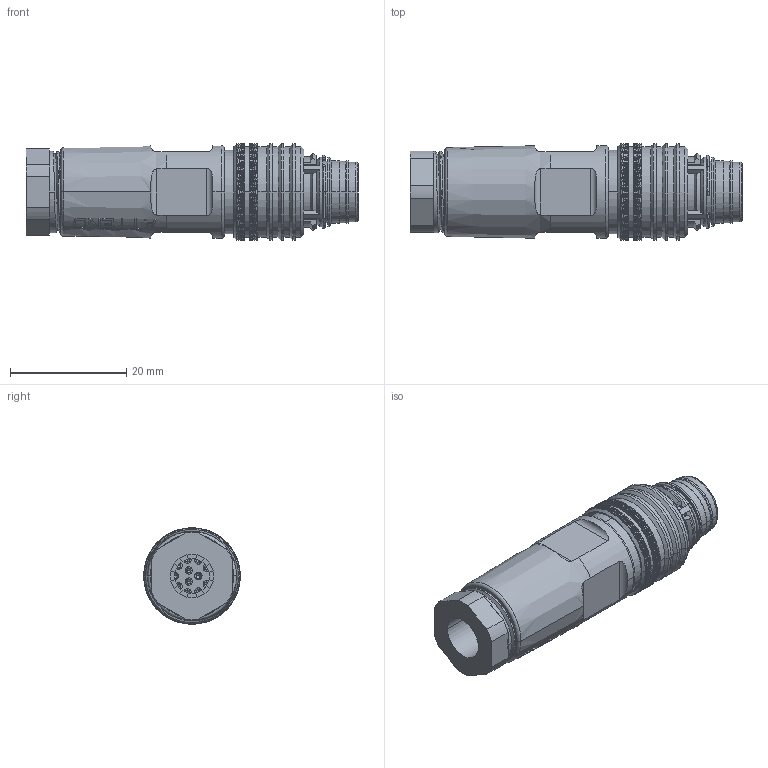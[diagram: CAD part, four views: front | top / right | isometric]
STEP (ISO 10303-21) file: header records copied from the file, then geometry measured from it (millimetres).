
FILE_DESCRIPTION((''),'2;1');
FILE_NAME('3D_DRAWING_ASM_ASM','2025-12-24T',('fros.liao'),(''),'CREO PARAMETRIC BY PTC INC, 2018360','CREO PARAMETRIC BY PTC INC, 2018360','');
FILE_SCHEMA(('AUTOMOTIVE_DESIGN { 1 0 10303 214 1 1 1 1 }'));
Products named in the file (29): SHIELD_NUT_17_1_1_1; PLASTIC_STRAPS_14_1_1_1; RUBBER_STRAPS_14_1_1_1; BACK_PLUG_15_1_1_1; BODY_11_1_1_1; ORING_PUSHPULL_6_1_1_1; THREAD_SLEEVE_ASM_23_ASM_1_ASM__ASM; MSBR-18_1_1_1; MSBR-17_1_1_1; MSBR-16_1_1_1_1; MSBR-15_1_1_1_1; MSBR-14_1_1_1_1; MSBR-13_1_1_1_1; MSBR-12_1_1_1_2_1; MSBR-11_1_1_1_2_1; MSBR-10_1_1_1_2_1; MSBR-9_1_1_1_2_1; MSBR-8_1_1_1_2_1; MSBR-7_1_1_1_2_1; MSBR-6_1_1_1_2_1; MSBR-5_1_1_1_2_1; MSBR-4_1_1_1_2_1; MSBR-3_1_1_1_2_1; MSBR-2_1_1_1_2_1; MSBR-1_1_1_1_2_1; 216A-12M01_ASM_1_ASM_1_ASM; 216A-12M01_C_1_ASM_1_ASM; 3D_DRAWING_ASM_3_ASM; 3D_DRAWING_ASM_ASM
Assembly tree (28 placements, depth 5):
  3D_DRAWING_ASM_ASM
    3D_DRAWING_ASM_3_ASM
      THREAD_SLEEVE_ASM_23_ASM_1_ASM__ASM
        SHIELD_NUT_17_1_1_1
        PLASTIC_STRAPS_14_1_1_1
        RUBBER_STRAPS_14_1_1_1
        BACK_PLUG_15_1_1_1
        BODY_11_1_1_1
        ORING_PUSHPULL_6_1_1_1
      216A-12M01_C_1_ASM_1_ASM
        216A-12M01_ASM_1_ASM_1_ASM
          MSBR-18_1_1_1
          MSBR-17_1_1_1
          MSBR-16_1_1_1_1
          MSBR-15_1_1_1_1
          MSBR-14_1_1_1_1
          MSBR-13_1_1_1_1
          MSBR-12_1_1_1_2_1
          MSBR-11_1_1_1_2_1
          MSBR-10_1_1_1_2_1
          MSBR-9_1_1_1_2_1
          MSBR-8_1_1_1_2_1
          MSBR-7_1_1_1_2_1
          MSBR-6_1_1_1_2_1
          MSBR-5_1_1_1_2_1
          MSBR-4_1_1_1_2_1
          MSBR-3_1_1_1_2_1
          MSBR-2_1_1_1_2_1
          MSBR-1_1_1_1_2_1
Bounding box: 57.15 x 16.6 x 16.6 mm (x, y, z)
Volume: 6814.6 mm3; surface area: 12391.4 mm2
Topology: 24 solids, 24 shells, 2289 faces, 5396 edges, 3182 vertices
Faces by surface type: bspline 1033, cylinder 679, plane 304, cone 193, torus 56, sphere 24
Entity records: 116466 total; most frequent: CARTESIAN_POINT 53977, ORIENTED_EDGE 10696, DIRECTION 6599, EDGE_CURVE 5348, PRESENTATION_STYLE_ASSIGNMENT 4964, STYLED_ITEM 4964, CURVE_STYLE 4604, VERTEX_POINT 3182
